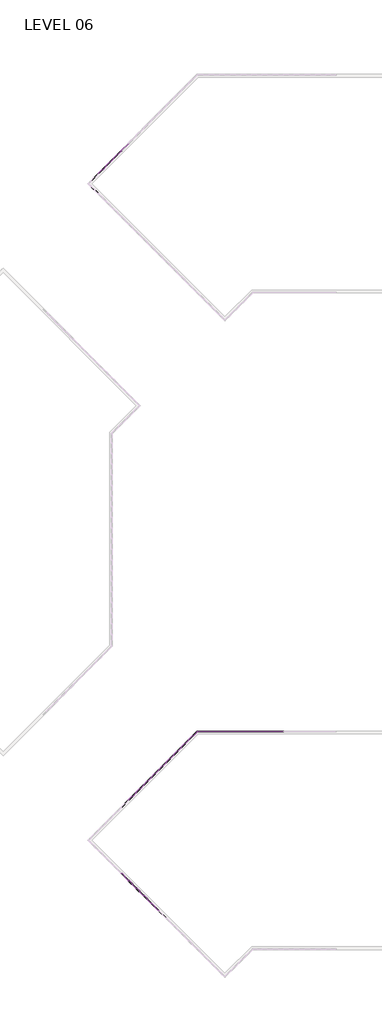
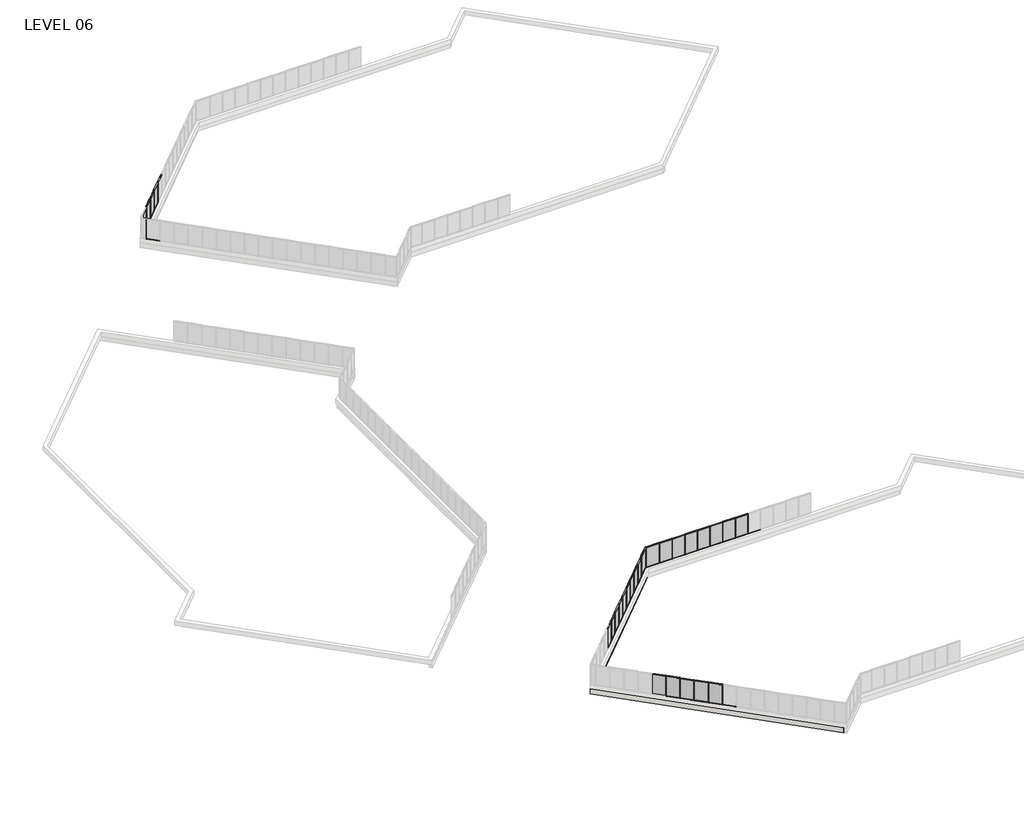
# One storey, part 7 of 17: 84 members, 27 plates, 2 walls.
"""IFC4 building model written with IfcOpenShell, lengths in millimetres."""

from ifc_helpers import new_model, si_unit, origin, place, context, project, spatial, faceted_brep, transform, mapped, element, save
from components import member_5247f267, member_e44af9ab, member_800970d4, member_1bd862b2, member_7ca0f77f, member_ed9c17d6, plate_67294edd, plate_048e4634, plate_aaac5d3d, plate_bbcbcabf, plate_e0fd5134, plate_db5d6751, plate_62af1d3c, plate_dca6a18a

model = new_model("IFC4")

# Units and contexts
model_context = context("Model", 3, world=origin())
ifc_project = project(units=[si_unit("LENGTHUNIT", "METRE", prefix="MILLI")], contexts=[model_context])

# Site, building, storey
site = spatial("IfcSite", under=ifc_project)
building = spatial("IfcBuilding", under=site)
storey = spatial("IfcBuildingStorey", under=building, Name="LEVEL 06", Elevation=19596.1)

# Members
placement = place(None, origin())
member_shape = member_5247f267(model_context)
element("IfcMember", 1, ObjectType="Rectangular Mullion : 2\" x 4.5\" rectangular", at=placement, inside=storey, context=model_context, shape_type="MappedRepresentation", body=[
    mapped(member_shape, transform((21469.35, 26080.1328721, 19596.1), x_axis=(0.0, 0.0, -1.0), y_axis=(0.0, -1.0, 0.0), z_axis=(-1.0, 0.0, 0.0))),
])
element("IfcMember", 2, ObjectType="Rectangular Mullion : 2\" x 4.5\" rectangular", at=placement, inside=storey, context=model_context, shape_type="MappedRepresentation", body=[
    mapped(member_shape, transform((22993.35, 26080.1328721, 19596.1), x_axis=(0.0, 0.0, -1.0), y_axis=(0.0, -1.0, 0.0), z_axis=(-1.0, 0.0, 0.0))),
])
element("IfcMember", 3, ObjectType="Rectangular Mullion : 2\" x 4.5\" rectangular", at=placement, inside=storey, context=model_context, shape_type="MappedRepresentation", body=[
    mapped(member_shape, transform((19945.35, 26080.1328721, 19596.1), x_axis=(0.0, 0.0, -1.0), y_axis=(0.0, -1.0, 0.0), z_axis=(-1.0, 0.0, 0.0))),
])
element("IfcMember", 4, ObjectType="Rectangular Mullion : 2\" x 4.5\" rectangular", at=placement, inside=storey, context=model_context, shape_type="MappedRepresentation", body=[
    mapped(member_shape, transform((18421.35, 26080.1328721, 19596.1), x_axis=(0.0, 0.0, -1.0), y_axis=(0.0, -1.0, 0.0), z_axis=(-1.0, 0.0, 0.0))),
])
element("IfcMember", 5, ObjectType="Rectangular Mullion : 2\" x 4.5\" rectangular", at=placement, inside=storey, context=model_context, shape_type="MappedRepresentation", body=[
    mapped(member_shape, transform((16897.35, 26080.1328721, 19596.1), x_axis=(0.0, 0.0, -1.0), y_axis=(0.0, -1.0, 0.0), z_axis=(-1.0, 0.0, 0.0))),
])
element("IfcMember", 6, ObjectType="Rectangular Mullion : 2\" x 4.5\" rectangular", at=placement, inside=storey, context=model_context, shape_type="MappedRepresentation", body=[
    mapped(member_shape, transform((15373.35, 26080.1328721, 19596.1), x_axis=(0.0, 0.0, -1.0), y_axis=(0.0, -1.0, 0.0), z_axis=(-1.0, 0.0, 0.0))),
])
element("IfcMember", 7, ObjectType="Rectangular Mullion : 2\" x 4.5\" rectangular", at=placement, inside=storey, context=model_context, shape_type="MappedRepresentation", body=[
    mapped(member_shape, transform((13849.35, 26080.1328721, 19596.1), x_axis=(0.0, 0.0, -1.0), y_axis=(0.0, -1.0, 0.0), z_axis=(-1.0, 0.0, 0.0))),
])
element("IfcMember", 8, ObjectType="Rectangular Mullion : 2\" x 4.5\" rectangular", at=placement, inside=storey, context=model_context, shape_type="MappedRepresentation", body=[
    mapped(member_shape, transform((12325.35, 26080.1328721, 19596.1), x_axis=(0.0, 0.0, -1.0), y_axis=(0.0, -1.0, 0.0), z_axis=(-1.0, 0.0, 0.0))),
])
element("IfcMember", 9, ObjectType="Rectangular Mullion : 2\" x 4.5\" rectangular", at=placement, inside=storey, context=model_context, shape_type="MappedRepresentation", body=[
    mapped(member_shape, transform((8320.1332875, 23790.0222953, 19596.1), x_axis=(0.0, 0.0, -1.0), y_axis=(-0.7071067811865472, 0.7071067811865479, 0.0), z_axis=(0.7071067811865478, 0.7071067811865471, 0.0))),
])
element("IfcMember", 10, ObjectType="Rectangular Mullion : 2\" x 4.5\" rectangular", at=placement, inside=storey, context=model_context, shape_type="MappedRepresentation", body=[
    mapped(member_shape, transform((7242.502553, 22712.3915608, 19596.1), x_axis=(0.0, 0.0, -1.0), y_axis=(-0.7071067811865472, 0.7071067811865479, 0.0), z_axis=(0.7071067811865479, 0.7071067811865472, 0.0))),
])
element("IfcMember", 11, ObjectType="Rectangular Mullion : 2\" x 4.5\" rectangular", at=placement, inside=storey, context=model_context, shape_type="MappedRepresentation", body=[
    mapped(member_shape, transform((6164.8718185, 21634.7608262, 19596.1), x_axis=(0.0, 0.0, -1.0), y_axis=(-0.7071067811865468, 0.7071067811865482, 0.0), z_axis=(0.7071067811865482, 0.7071067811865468, 0.0))),
])
element("IfcMember", 12, ObjectType="Rectangular Mullion : 2\" x 4.5\" rectangular", at=placement, inside=storey, context=model_context, shape_type="MappedRepresentation", body=[
    mapped(member_shape, transform((4009.6251512, 19479.5141589, 19596.1), x_axis=(0.0, 0.0, -1.0), y_axis=(-0.7071067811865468, 0.7071067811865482, 0.0), z_axis=(0.7071067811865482, 0.7071067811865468, 0.0))),
])
element("IfcMember", 13, ObjectType="Rectangular Mullion : 2\" x 4.5\" rectangular", at=placement, inside=storey, context=model_context, shape_type="MappedRepresentation", body=[
    mapped(member_shape, transform((2932.0092184, 18401.8982261, 19596.1), x_axis=(0.0, 0.0, -1.0), y_axis=(-0.7071067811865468, 0.7071067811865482, 0.0), z_axis=(0.7071067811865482, 0.7071067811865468, 0.0))),
])
element("IfcMember", 14, ObjectType="Rectangular Mullion : 2\" x 4.5\" rectangular", at=placement, inside=storey, context=model_context, shape_type="MappedRepresentation", body=[
    mapped(member_shape, transform((1854.3932855, 17324.2822933, 19596.1), x_axis=(0.0, 0.0, -1.0), y_axis=(-0.7071067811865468, 0.7071067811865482, 0.0), z_axis=(0.7071067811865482, 0.7071067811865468, 0.0))),
])
element("IfcMember", 15, ObjectType="Rectangular Mullion : 2\" x 4.5\" rectangular", at=placement, inside=storey, context=model_context, shape_type="MappedRepresentation", body=[
    mapped(member_shape, transform((776.7773527, 16246.6663605, 19596.1), x_axis=(0.0, 0.0, -1.0), y_axis=(-0.7071067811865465, 0.7071067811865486, 0.0), z_axis=(0.7071067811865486, 0.7071067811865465, 0.0))),
])
element("IfcMember", 16, ObjectType="Rectangular Mullion : 2\" x 4.5\" rectangular", at=placement, inside=storey, context=model_context, shape_type="MappedRepresentation", body=[
    mapped(member_shape, transform((9397.7640221, 24867.6530298, 19596.1), x_axis=(0.0, 0.0, -1.0), y_axis=(-0.7071067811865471, 0.7071067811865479, 0.0), z_axis=(0.7071067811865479, 0.7071067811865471, 0.0))),
])
element("IfcMember", 17, ObjectType="Rectangular Mullion : 2\" x 4.5\" rectangular", at=placement, inside=storey, context=model_context, shape_type="MappedRepresentation", body=[
    mapped(member_shape, transform((5087.2484848, 20557.1374926, 19596.1), x_axis=(0.0, 0.0, -1.0), y_axis=(-0.7071067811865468, 0.7071067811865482, 0.0), z_axis=(0.7071067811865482, 0.7071067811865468, 0.0))),
])
element("IfcMember", 18, ObjectType="Rectangular Mullion : 2\" x 4.5\" rectangular", at=placement, inside=storey, context=model_context, shape_type="MappedRepresentation", body=[
    mapped(member_shape, transform((812.6774444, 4705.5492921, 19596.1), x_axis=(0.0, 0.0, -1.0), y_axis=(-0.7071067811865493, -0.7071067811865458, 0.0), z_axis=(-0.7071067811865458, 0.7071067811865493, 0.0))),
])
element("IfcMember", 19, ObjectType="Rectangular Mullion : 2\" x 4.5\" rectangular", at=placement, inside=storey, context=model_context, shape_type="MappedRepresentation", body=[
    mapped(member_shape, transform((1890.2724444, 3627.9542921, 19596.1), x_axis=(0.0, 0.0, -1.0), y_axis=(-0.7071067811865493, -0.7071067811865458, 0.0), z_axis=(-0.7071067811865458, 0.7071067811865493, 0.0))),
])
element("IfcMember", 20, ObjectType="Rectangular Mullion : 2\" x 4.5\" rectangular", at=placement, inside=storey, context=model_context, shape_type="MappedRepresentation", body=[
    mapped(member_shape, transform((2967.8674444, 2550.3592921, 19596.1), x_axis=(0.0, 0.0, -1.0), y_axis=(-0.707106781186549, -0.7071067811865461, 0.0), z_axis=(-0.7071067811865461, 0.707106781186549, 0.0))),
])
element("IfcMember", 21, ObjectType="Rectangular Mullion : 2\" x 4.5\" rectangular", at=placement, inside=storey, context=model_context, shape_type="MappedRepresentation", body=[
    mapped(member_shape, transform((-3533.9094563, 105983.7989843, 19596.1), x_axis=(0.0, 0.0, -1.0), y_axis=(-0.7071067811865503, 0.7071067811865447, 0.0), z_axis=(0.7071067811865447, 0.7071067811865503, 0.0))),
])
element("IfcMember", 22, ObjectType="Rectangular Mullion : 2\" x 4.5\" rectangular", at=placement, inside=storey, context=model_context, shape_type="MappedRepresentation", body=[
    mapped(member_shape, transform((-301.0172527, 109216.6911879, 19596.1), x_axis=(0.0, 0.0, -1.0), y_axis=(-0.7071067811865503, 0.7071067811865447, 0.0), z_axis=(0.7071067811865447, 0.7071067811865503, 0.0))),
])
element("IfcMember", 23, ObjectType="Rectangular Mullion : 2\" x 4.5\" rectangular", at=placement, inside=storey, context=model_context, shape_type="MappedRepresentation", body=[
    mapped(member_shape, transform((-1378.6479872, 108139.0604533, 19596.1), x_axis=(0.0, 0.0, -1.0), y_axis=(-0.7071067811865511, 0.707106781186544, 0.0), z_axis=(0.707106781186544, 0.7071067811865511, 0.0))),
])
element("IfcMember", 24, ObjectType="Rectangular Mullion : 2\" x 4.5\" rectangular", at=placement, inside=storey, context=model_context, shape_type="MappedRepresentation", body=[
    mapped(member_shape, transform((-2456.2787218, 107061.4297188, 19596.1), x_axis=(0.0, 0.0, -1.0), y_axis=(-0.7071067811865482, 0.7071067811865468, 0.0), z_axis=(0.7071067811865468, 0.7071067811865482, 0.0))),
])
element("IfcMember", 25, ObjectType="Rectangular Mullion : 2\" x 4.5\" rectangular", at=placement, inside=storey, context=model_context, shape_type="MappedRepresentation", body=[
    mapped(member_shape, transform((-4575.4404937, 104141.486663, 19596.1), x_axis=(0.0, 0.0, -1.0), y_axis=(-0.7071067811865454, -0.7071067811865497, 0.0), z_axis=(-0.7071067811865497, 0.7071067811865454, 0.0))),
])
element("IfcMember", 26, ObjectType="Rectangular Mullion : 2\" x 4.5\" rectangular", at=placement, inside=storey, context=model_context, shape_type="MappedRepresentation", body=[
    mapped(member_shape, transform((21418.55, 26080.1328721, 22186.9), x_axis=(0.0, 0.0, 1.0), y_axis=(0.0, -1.0, 0.0), z_axis=(1.0, 0.0, 0.0))),
])
element("IfcMember", 27, ObjectType="Rectangular Mullion : 2\" x 4.5\" rectangular", at=placement, inside=storey, context=model_context, shape_type="MappedRepresentation", body=[
    mapped(member_shape, transform((22942.55, 26080.1328721, 22186.9), x_axis=(0.0, 0.0, 1.0), y_axis=(0.0, -1.0, 0.0), z_axis=(1.0, 0.0, 0.0))),
])
element("IfcMember", 28, ObjectType="Rectangular Mullion : 2\" x 4.5\" rectangular", at=placement, inside=storey, context=model_context, shape_type="MappedRepresentation", body=[
    mapped(member_shape, transform((19894.55, 26080.1328721, 22186.9), x_axis=(0.0, 0.0, 1.0), y_axis=(0.0, -1.0, 0.0), z_axis=(1.0, 0.0, 0.0))),
])
element("IfcMember", 29, ObjectType="Rectangular Mullion : 2\" x 4.5\" rectangular", at=placement, inside=storey, context=model_context, shape_type="MappedRepresentation", body=[
    mapped(member_shape, transform((18370.55, 26080.1328721, 22186.9), x_axis=(0.0, 0.0, 1.0), y_axis=(0.0, -1.0, 0.0), z_axis=(1.0, 0.0, 0.0))),
])
element("IfcMember", 30, ObjectType="Rectangular Mullion : 2\" x 4.5\" rectangular", at=placement, inside=storey, context=model_context, shape_type="MappedRepresentation", body=[
    mapped(member_shape, transform((16846.55, 26080.1328721, 22186.9), x_axis=(0.0, 0.0, 1.0), y_axis=(0.0, -1.0, 0.0), z_axis=(1.0, 0.0, 0.0))),
])
element("IfcMember", 31, ObjectType="Rectangular Mullion : 2\" x 4.5\" rectangular", at=placement, inside=storey, context=model_context, shape_type="MappedRepresentation", body=[
    mapped(member_shape, transform((15322.55, 26080.1328721, 22186.9), x_axis=(0.0, 0.0, 1.0), y_axis=(0.0, -1.0, 0.0), z_axis=(1.0, 0.0, 0.0))),
])
element("IfcMember", 32, ObjectType="Rectangular Mullion : 2\" x 4.5\" rectangular", at=placement, inside=storey, context=model_context, shape_type="MappedRepresentation", body=[
    mapped(member_shape, transform((13798.55, 26080.1328721, 22186.9), x_axis=(0.0, 0.0, 1.0), y_axis=(0.0, -1.0, 0.0), z_axis=(1.0, 0.0, 0.0))),
])
element("IfcMember", 33, ObjectType="Rectangular Mullion : 2\" x 4.5\" rectangular", at=placement, inside=storey, context=model_context, shape_type="MappedRepresentation", body=[
    mapped(member_shape, transform((8356.054312, 23825.9433198, 22186.9), x_axis=(0.0, 0.0, 1.0), y_axis=(-0.7071067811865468, 0.7071067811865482, 0.0), z_axis=(-0.7071067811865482, -0.7071067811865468, 0.0))),
])
element("IfcMember", 34, ObjectType="Rectangular Mullion : 2\" x 4.5\" rectangular", at=placement, inside=storey, context=model_context, shape_type="MappedRepresentation", body=[
    mapped(member_shape, transform((7278.4235775, 22748.3125852, 22186.9), x_axis=(0.0, 0.0, 1.0), y_axis=(-0.7071067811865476, 0.7071067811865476, 0.0), z_axis=(-0.7071067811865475, -0.7071067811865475, 0.0))),
])
element("IfcMember", 35, ObjectType="Rectangular Mullion : 2\" x 4.5\" rectangular", at=placement, inside=storey, context=model_context, shape_type="MappedRepresentation", body=[
    mapped(member_shape, transform((6200.792843, 21670.6818507, 22186.9), x_axis=(0.0, 0.0, 1.0), y_axis=(-0.7071067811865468, 0.7071067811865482, 0.0), z_axis=(-0.7071067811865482, -0.7071067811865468, 0.0))),
])
element("IfcMember", 36, ObjectType="Rectangular Mullion : 2\" x 4.5\" rectangular", at=placement, inside=storey, context=model_context, shape_type="MappedRepresentation", body=[
    mapped(member_shape, transform((4045.5461756, 19515.4351834, 22186.9), x_axis=(0.0, 0.0, 1.0), y_axis=(-0.7071067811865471, 0.7071067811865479, 0.0), z_axis=(-0.7071067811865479, -0.7071067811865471, 0.0))),
])
element("IfcMember", 37, ObjectType="Rectangular Mullion : 2\" x 4.5\" rectangular", at=placement, inside=storey, context=model_context, shape_type="MappedRepresentation", body=[
    mapped(member_shape, transform((2967.9302428, 18437.8192506, 22186.9), x_axis=(0.0, 0.0, 1.0), y_axis=(-0.7071067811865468, 0.7071067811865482, 0.0), z_axis=(-0.7071067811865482, -0.7071067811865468, 0.0))),
])
element("IfcMember", 38, ObjectType="Rectangular Mullion : 2\" x 4.5\" rectangular", at=placement, inside=storey, context=model_context, shape_type="MappedRepresentation", body=[
    mapped(member_shape, transform((1890.31431, 17360.2033178, 22186.9), x_axis=(0.0, 0.0, 1.0), y_axis=(-0.7071067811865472, 0.7071067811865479, 0.0), z_axis=(-0.7071067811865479, -0.7071067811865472, 0.0))),
])
element("IfcMember", 39, ObjectType="Rectangular Mullion : 2\" x 4.5\" rectangular", at=placement, inside=storey, context=model_context, shape_type="MappedRepresentation", body=[
    mapped(member_shape, transform((812.6983772, 16282.587385, 22186.9), x_axis=(0.0, 0.0, 1.0), y_axis=(-0.7071067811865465, 0.7071067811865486, 0.0), z_axis=(-0.7071067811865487, -0.7071067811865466, 0.0))),
])
element("IfcMember", 40, ObjectType="Rectangular Mullion : 2\" x 4.5\" rectangular", at=placement, inside=storey, context=model_context, shape_type="MappedRepresentation", body=[
    mapped(member_shape, transform((5123.1695093, 20593.058517, 22186.9), x_axis=(0.0, 0.0, 1.0), y_axis=(-0.7071067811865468, 0.7071067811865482, 0.0), z_axis=(-0.7071067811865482, -0.7071067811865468, 0.0))),
])
element("IfcMember", 41, ObjectType="Rectangular Mullion : 2\" x 4.5\" rectangular", at=placement, inside=storey, context=model_context, shape_type="MappedRepresentation", body=[
    mapped(member_shape, transform((776.7564199, 4741.4703165, 22186.9), x_axis=(0.0, 0.0, 1.0), y_axis=(-0.7071067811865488, -0.7071067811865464, 0.0), z_axis=(0.7071067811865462, -0.7071067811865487, 0.0))),
])
element("IfcMember", 42, ObjectType="Rectangular Mullion : 2\" x 4.5\" rectangular", at=placement, inside=storey, context=model_context, shape_type="MappedRepresentation", body=[
    mapped(member_shape, transform((1854.3514199, 3663.8753165, 22186.9), x_axis=(0.0, 0.0, 1.0), y_axis=(-0.7071067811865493, -0.7071067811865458, 0.0), z_axis=(0.7071067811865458, -0.7071067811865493, 0.0))),
])
element("IfcMember", 43, ObjectType="Rectangular Mullion : 2\" x 4.5\" rectangular", at=placement, inside=storey, context=model_context, shape_type="MappedRepresentation", body=[
    mapped(member_shape, transform((2931.9464199, 2586.2803165, 22186.9), x_axis=(0.0, 0.0, 1.0), y_axis=(-0.7071067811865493, -0.7071067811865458, 0.0), z_axis=(0.7071067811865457, -0.7071067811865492, 0.0))),
])
element("IfcMember", 44, ObjectType="Rectangular Mullion : 2\" x 4.5\" rectangular", at=placement, inside=storey, context=model_context, shape_type="MappedRepresentation", body=[
    mapped(member_shape, transform((4009.5414199, 1508.6853165, 22186.9), x_axis=(0.0, 0.0, 1.0), y_axis=(-0.7071067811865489, -0.7071067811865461, 0.0), z_axis=(0.7071067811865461, -0.7071067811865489, 0.0))),
])
element("IfcMember", 45, ObjectType="Rectangular Mullion : 2\" x 4.5\" rectangular", at=placement, inside=storey, context=model_context, shape_type="MappedRepresentation", body=[
    mapped(member_shape, transform((-3497.9884318, 106019.7200088, 22186.9), x_axis=(0.0, 0.0, 1.0), y_axis=(-0.7071067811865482, 0.7071067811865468, 0.0), z_axis=(-0.7071067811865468, -0.7071067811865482, 0.0))),
])
element("IfcMember", 46, ObjectType="Rectangular Mullion : 2\" x 4.5\" rectangular", at=placement, inside=storey, context=model_context, shape_type="MappedRepresentation", body=[
    mapped(member_shape, transform((-265.0962282, 109252.6122123, 22186.9), x_axis=(0.0, 0.0, 1.0), y_axis=(-0.7071067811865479, 0.7071067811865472, 0.0), z_axis=(-0.7071067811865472, -0.7071067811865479, 0.0))),
])
element("IfcMember", 47, ObjectType="Rectangular Mullion : 2\" x 4.5\" rectangular", at=placement, inside=storey, context=model_context, shape_type="MappedRepresentation", body=[
    mapped(member_shape, transform((-1342.7269627, 108174.9814778, 22186.9), x_axis=(0.0, 0.0, 1.0), y_axis=(-0.7071067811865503, 0.7071067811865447, 0.0), z_axis=(-0.7071067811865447, -0.7071067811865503, 0.0))),
])
element("IfcMember", 48, ObjectType="Rectangular Mullion : 2\" x 4.5\" rectangular", at=placement, inside=storey, context=model_context, shape_type="MappedRepresentation", body=[
    mapped(member_shape, transform((-2420.3576973, 107097.3507433, 22186.9), x_axis=(0.0, 0.0, 1.0), y_axis=(-0.7071067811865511, 0.707106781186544, 0.0), z_axis=(-0.707106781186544, -0.7071067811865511, 0.0))),
])
member_2_shape = member_e44af9ab(model_context)
element("IfcMember", 49, ObjectType="Rectangular Mullion : 2\" x 4.5\" rectangular", at=placement, inside=storey, context=model_context, shape_type="MappedRepresentation", body=[
    mapped(member_2_shape, transform((21443.95, 26080.1328721, 19596.1), x_axis=(1.0, 0.0, 0.0), y_axis=(0.0, -1.0, 0.0), z_axis=(0.0, 0.0, -1.0))),
])
element("IfcMember", 50, ObjectType="Rectangular Mullion : 2\" x 4.5\" rectangular", at=placement, inside=storey, context=model_context, shape_type="MappedRepresentation", body=[
    mapped(member_2_shape, transform((22967.95, 26080.1328721, 19596.1), x_axis=(1.0, 0.0, 0.0), y_axis=(0.0, -1.0, 0.0), z_axis=(0.0, 0.0, -1.0))),
])
element("IfcMember", 51, ObjectType="Rectangular Mullion : 2\" x 4.5\" rectangular", at=placement, inside=storey, context=model_context, shape_type="MappedRepresentation", body=[
    mapped(member_2_shape, transform((19919.95, 26080.1328721, 19596.1), x_axis=(1.0, 0.0, 0.0), y_axis=(0.0, -1.0, 0.0), z_axis=(0.0, 0.0, -1.0))),
])
element("IfcMember", 52, ObjectType="Rectangular Mullion : 2\" x 4.5\" rectangular", at=placement, inside=storey, context=model_context, shape_type="MappedRepresentation", body=[
    mapped(member_2_shape, transform((18395.95, 26080.1328721, 19596.1), x_axis=(1.0, 0.0, 0.0), y_axis=(0.0, -1.0, 0.0), z_axis=(0.0, 0.0, -1.0))),
])
element("IfcMember", 53, ObjectType="Rectangular Mullion : 2\" x 4.5\" rectangular", at=placement, inside=storey, context=model_context, shape_type="MappedRepresentation", body=[
    mapped(member_2_shape, transform((16871.95, 26080.1328721, 19596.1), x_axis=(1.0, 0.0, 0.0), y_axis=(0.0, -1.0, 0.0), z_axis=(0.0, 0.0, -1.0))),
])
element("IfcMember", 54, ObjectType="Rectangular Mullion : 2\" x 4.5\" rectangular", at=placement, inside=storey, context=model_context, shape_type="MappedRepresentation", body=[
    mapped(member_2_shape, transform((15347.95, 26080.1328721, 19596.1), x_axis=(1.0, 0.0, 0.0), y_axis=(0.0, -1.0, 0.0), z_axis=(0.0, 0.0, -1.0))),
])
element("IfcMember", 55, ObjectType="Rectangular Mullion : 2\" x 4.5\" rectangular", at=placement, inside=storey, context=model_context, shape_type="MappedRepresentation", body=[
    mapped(member_2_shape, transform((13823.95, 26080.1328721, 19596.1), x_axis=(1.0, 0.0, 0.0), y_axis=(0.0, -1.0, 0.0), z_axis=(0.0, 0.0, -1.0))),
])
element("IfcMember", 56, ObjectType="Rectangular Mullion : 2\" x 4.5\" rectangular", at=placement, inside=storey, context=model_context, shape_type="MappedRepresentation", body=[
    mapped(member_2_shape, transform((12299.95, 26080.1328721, 19596.1), x_axis=(1.0, 0.0, 0.0), y_axis=(0.0, -1.0, 0.0), z_axis=(0.0, 0.0, -1.0))),
])
element("IfcMember", 57, ObjectType="Rectangular Mullion : 2\" x 4.5\" rectangular", at=placement, inside=storey, context=model_context, shape_type="MappedRepresentation", body=[
    mapped(member_2_shape, transform((8338.0937998, 23807.9828075, 19596.1), x_axis=(-0.7071067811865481, -0.7071067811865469, 0.0), y_axis=(-0.7071067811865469, 0.7071067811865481, 0.0), z_axis=(0.0, 0.0, -1.0))),
])
element("IfcMember", 58, ObjectType="Rectangular Mullion : 2\" x 4.5\" rectangular", at=placement, inside=storey, context=model_context, shape_type="MappedRepresentation", body=[
    mapped(member_2_shape, transform((7260.4630653, 22730.352073, 19596.1), x_axis=(-0.7071067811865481, -0.7071067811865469, 0.0), y_axis=(-0.7071067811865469, 0.7071067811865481, 0.0), z_axis=(0.0, 0.0, -1.0))),
])
element("IfcMember", 59, ObjectType="Rectangular Mullion : 2\" x 4.5\" rectangular", at=placement, inside=storey, context=model_context, shape_type="MappedRepresentation", body=[
    mapped(member_2_shape, transform((6182.8323307, 21652.7213385, 19596.1), x_axis=(-0.7071067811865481, -0.7071067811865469, 0.0), y_axis=(-0.7071067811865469, 0.7071067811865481, 0.0), z_axis=(0.0, 0.0, -1.0))),
])
element("IfcMember", 60, ObjectType="Rectangular Mullion : 2\" x 4.5\" rectangular", at=placement, inside=storey, context=model_context, shape_type="MappedRepresentation", body=[
    mapped(member_2_shape, transform((4027.5856634, 19497.4746711, 19596.1), x_axis=(-0.7071067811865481, -0.7071067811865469, 0.0), y_axis=(-0.7071067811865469, 0.7071067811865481, 0.0), z_axis=(0.0, 0.0, -1.0))),
])
element("IfcMember", 61, ObjectType="Rectangular Mullion : 2\" x 4.5\" rectangular", at=placement, inside=storey, context=model_context, shape_type="MappedRepresentation", body=[
    mapped(member_2_shape, transform((2949.9697306, 18419.8587383, 19596.1), x_axis=(-0.7071067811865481, -0.7071067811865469, 0.0), y_axis=(-0.7071067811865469, 0.7071067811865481, 0.0), z_axis=(0.0, 0.0, -1.0))),
])
element("IfcMember", 62, ObjectType="Rectangular Mullion : 2\" x 4.5\" rectangular", at=placement, inside=storey, context=model_context, shape_type="MappedRepresentation", body=[
    mapped(member_2_shape, transform((1872.3537978, 17342.2428055, 19596.1), x_axis=(-0.7071067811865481, -0.7071067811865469, 0.0), y_axis=(-0.7071067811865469, 0.7071067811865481, 0.0), z_axis=(0.0, 0.0, -1.0))),
])
element("IfcMember", 63, ObjectType="Rectangular Mullion : 2\" x 4.5\" rectangular", at=placement, inside=storey, context=model_context, shape_type="MappedRepresentation", body=[
    mapped(member_2_shape, transform((794.737865, 16264.6268727, 19596.1), x_axis=(-0.7071067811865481, -0.7071067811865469, 0.0), y_axis=(-0.7071067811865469, 0.7071067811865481, 0.0), z_axis=(0.0, 0.0, -1.0))),
])
element("IfcMember", 64, ObjectType="Rectangular Mullion : 2\" x 4.5\" rectangular", at=placement, inside=storey, context=model_context, shape_type="MappedRepresentation", body=[
    mapped(member_2_shape, transform((9415.7245343, 24885.6135421, 19596.1), x_axis=(-0.7071067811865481, -0.7071067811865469, 0.0), y_axis=(-0.7071067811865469, 0.7071067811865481, 0.0), z_axis=(0.0, 0.0, -1.0))),
])
element("IfcMember", 65, ObjectType="Rectangular Mullion : 2\" x 4.5\" rectangular", at=placement, inside=storey, context=model_context, shape_type="MappedRepresentation", body=[
    mapped(member_2_shape, transform((5105.2089971, 20575.0980048, 19596.1), x_axis=(-0.7071067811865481, -0.7071067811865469, 0.0), y_axis=(-0.7071067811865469, 0.7071067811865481, 0.0), z_axis=(0.0, 0.0, -1.0))),
])
element("IfcMember", 66, ObjectType="Rectangular Mullion : 2\" x 4.5\" rectangular", at=placement, inside=storey, context=model_context, shape_type="MappedRepresentation", body=[
    mapped(member_2_shape, transform((794.7169322, 4723.5098043, 19596.1), x_axis=(0.7071067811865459, -0.7071067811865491, 0.0), y_axis=(-0.7071067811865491, -0.7071067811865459, 0.0), z_axis=(0.0, 0.0, -1.0))),
])
element("IfcMember", 67, ObjectType="Rectangular Mullion : 2\" x 4.5\" rectangular", at=placement, inside=storey, context=model_context, shape_type="MappedRepresentation", body=[
    mapped(member_2_shape, transform((1872.3119322, 3645.9148043, 19596.1), x_axis=(0.7071067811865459, -0.7071067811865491, 0.0), y_axis=(-0.7071067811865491, -0.7071067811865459, 0.0), z_axis=(0.0, 0.0, -1.0))),
])
element("IfcMember", 68, ObjectType="Rectangular Mullion : 2\" x 4.5\" rectangular", at=placement, inside=storey, context=model_context, shape_type="MappedRepresentation", body=[
    mapped(member_2_shape, transform((2949.9069322, 2568.3198043, 19596.1), x_axis=(0.7071067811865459, -0.7071067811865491, 0.0), y_axis=(-0.7071067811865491, -0.7071067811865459, 0.0), z_axis=(0.0, 0.0, -1.0))),
])
element("IfcMember", 69, ObjectType="Rectangular Mullion : 2\" x 4.5\" rectangular", at=placement, inside=storey, context=model_context, shape_type="MappedRepresentation", body=[
    mapped(member_2_shape, transform((4027.5019322, 1490.7248043, 19596.1), x_axis=(0.7071067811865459, -0.7071067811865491, 0.0), y_axis=(-0.7071067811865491, -0.7071067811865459, 0.0), z_axis=(0.0, 0.0, -1.0))),
])
element("IfcMember", 70, ObjectType="Rectangular Mullion : 2\" x 4.5\" rectangular", at=placement, inside=storey, context=model_context, shape_type="MappedRepresentation", body=[
    mapped(member_2_shape, transform((5102.1211371, 416.1055994, 19596.1), x_axis=(0.7071067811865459, -0.7071067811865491, 0.0), y_axis=(-0.7071067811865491, -0.7071067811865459, 0.0), z_axis=(0.0, 0.0, -1.0))),
])
element("IfcMember", 71, ObjectType="Rectangular Mullion : 2\" x 4.5\" rectangular", at=placement, inside=storey, context=model_context, shape_type="MappedRepresentation", body=[
    mapped(member_2_shape, transform((-3515.948944, 106001.7594965, 19596.1), x_axis=(-0.7071067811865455, -0.7071067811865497, 0.0), y_axis=(-0.7071067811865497, 0.7071067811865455, 0.0), z_axis=(0.0, 0.0, -1.0))),
])
element("IfcMember", 72, ObjectType="Rectangular Mullion : 2\" x 4.5\" rectangular", at=placement, inside=storey, context=model_context, shape_type="MappedRepresentation", body=[
    mapped(member_2_shape, transform((-283.0567405, 109234.6517001, 19596.1), x_axis=(-0.7071067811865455, -0.7071067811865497, 0.0), y_axis=(-0.7071067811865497, 0.7071067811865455, 0.0), z_axis=(0.0, 0.0, -1.0))),
])
element("IfcMember", 73, ObjectType="Rectangular Mullion : 2\" x 4.5\" rectangular", at=placement, inside=storey, context=model_context, shape_type="MappedRepresentation", body=[
    mapped(member_2_shape, transform((-1360.687475, 108157.0209656, 19596.1), x_axis=(-0.7071067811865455, -0.7071067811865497, 0.0), y_axis=(-0.7071067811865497, 0.7071067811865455, 0.0), z_axis=(0.0, 0.0, -1.0))),
])
element("IfcMember", 74, ObjectType="Rectangular Mullion : 2\" x 4.5\" rectangular", at=placement, inside=storey, context=model_context, shape_type="MappedRepresentation", body=[
    mapped(member_2_shape, transform((-2438.3182095, 107079.390231, 19596.1), x_axis=(-0.7071067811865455, -0.7071067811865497, 0.0), y_axis=(-0.7071067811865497, 0.7071067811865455, 0.0), z_axis=(0.0, 0.0, -1.0))),
])
element("IfcMember", 75, ObjectType="Rectangular Mullion : 2\" x 4.5\" rectangular", at=placement, inside=storey, context=model_context, shape_type="MappedRepresentation", body=[
    mapped(member_2_shape, transform((-4593.4010059, 104159.4471752, 19596.1), x_axis=(0.7071067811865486, -0.7071067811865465, 0.0), y_axis=(-0.7071067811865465, -0.7071067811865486, 0.0), z_axis=(0.0, 0.0, -1.0))),
])
member_3_shape = member_800970d4(model_context)
element("IfcMember", 76, ObjectType="Rectangular Mullion : 2\" x 4.5\" rectangular", at=placement, inside=storey, context=model_context, shape_type="MappedRepresentation", body=[
    mapped(member_3_shape, transform((10610.2438644, 26080.1328721, 22186.9), x_axis=(-1.0, 0.0, 0.0), y_axis=(0.0, -1.0, 0.0), z_axis=(0.0, 0.0, 1.0))),
])
element("IfcMember", 77, ObjectType="Rectangular Mullion : 2\" x 4.5\" rectangular", at=placement, inside=storey, context=model_context, shape_type="MappedRepresentation", body=[
    mapped(member_3_shape, transform((10610.2438644, 26080.1328721, 22186.9), x_axis=(0.7071067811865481, 0.7071067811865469, 0.0), y_axis=(-0.7071067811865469, 0.7071067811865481, 0.0), z_axis=(0.0, 0.0, 1.0))),
])
member_4_shape = member_1bd862b2(model_context)
element("IfcMember", 78, ObjectType="Rectangular Mullion : 2\" x 4.5\" rectangular", at=placement, inside=storey, context=model_context, shape_type="MappedRepresentation", body=[
    mapped(member_4_shape, transform((12274.55, 26080.1328721, 22186.9), x_axis=(0.0, 0.0, 1.0), y_axis=(0.0, -1.0, 0.0), z_axis=(1.0, 0.0, 0.0))),
])
element("IfcMember", 79, ObjectType="Rectangular Mullion : 2\" x 4.5\" rectangular", at=placement, inside=storey, context=model_context, shape_type="MappedRepresentation", body=[
    mapped(member_4_shape, transform((10661.0438644, 26080.1328721, 19596.1), x_axis=(0.0, 0.0, -1.0), y_axis=(0.0, -1.0, 0.0), z_axis=(-1.0, 0.0, 0.0))),
])
member_5_shape = member_7ca0f77f(model_context)
element("IfcMember", 80, ObjectType="Rectangular Mullion : 2\" x 4.5\" rectangular", at=placement, inside=storey, context=model_context, shape_type="MappedRepresentation", body=[
    mapped(member_5_shape, transform((9433.6850466, 24903.5740543, 22186.9), x_axis=(0.0, 0.0, 1.0), y_axis=(-0.7071067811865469, 0.7071067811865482, 0.0), z_axis=(-0.7071067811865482, -0.7071067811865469, 0.0))),
])
element("IfcMember", 81, ObjectType="Rectangular Mullion : 2\" x 4.5\" rectangular", at=placement, inside=storey, context=model_context, shape_type="MappedRepresentation", body=[
    mapped(member_5_shape, transform((10574.3228399, 26044.2118476, 19596.1), x_axis=(0.0, 0.0, -1.0), y_axis=(-0.7071067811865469, 0.7071067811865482, 0.0), z_axis=(0.7071067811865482, 0.7071067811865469, 0.0))),
])
member_6_shape = member_ed9c17d6(model_context)
element("IfcMember", 82, ObjectType="Rectangular Mullion : 2\" x 4.5\" rectangular", at=placement, inside=storey, context=model_context, shape_type="MappedRepresentation", body=[
    mapped(member_6_shape, transform((5084.1606248, 434.0661116, 22186.9), x_axis=(0.0, 0.0, 1.0), y_axis=(-0.7071067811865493, -0.7071067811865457, 0.0), z_axis=(0.7071067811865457, -0.7071067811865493, 0.0))),
])
element("IfcMember", 83, ObjectType="Rectangular Mullion : 2\" x 4.5\" rectangular", at=placement, inside=storey, context=model_context, shape_type="MappedRepresentation", body=[
    mapped(member_6_shape, transform((4045.4624444, 1472.7642921, 19596.1), x_axis=(0.0, 0.0, -1.0), y_axis=(-0.7071067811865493, -0.7071067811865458, 0.0), z_axis=(-0.7071067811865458, 0.7071067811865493, 0.0))),
])
element("IfcMember", 84, ObjectType="Rectangular Mullion : 2\" x 4.5\" rectangular", at=placement, inside=storey, context=model_context, shape_type="MappedRepresentation", body=[
    mapped(member_6_shape, transform((5120.0816493, 398.1450872, 19596.1), x_axis=(0.0, 0.0, -1.0), y_axis=(-0.7071067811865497, -0.7071067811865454, 0.0), z_axis=(-0.7071067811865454, 0.7071067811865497, 0.0))),
])

# Plates
plate_shape = plate_67294edd(model_context)
element("IfcPlate", 85, ObjectType="System Panel : 1/4\" Glass", at=placement, inside=storey, context=model_context, shape_type="MappedRepresentation", body=[
    mapped(plate_shape, transform((22205.95, 26080.1328721, 19646.9), x_axis=(1.0, 0.0, 0.0), y_axis=(0.0, 1.0, 0.0), z_axis=(0.0, 0.0, 1.0))),
])
element("IfcPlate", 86, ObjectType="System Panel : 1/4\" Glass", at=placement, inside=storey, context=model_context, shape_type="MappedRepresentation", body=[
    mapped(plate_shape, transform((20681.95, 26080.1328721, 19646.9), x_axis=(1.0, 0.0, 0.0), y_axis=(0.0, 1.0, 0.0), z_axis=(0.0, 0.0, 1.0))),
])
element("IfcPlate", 87, ObjectType="System Panel : 1/4\" Glass", at=placement, inside=storey, context=model_context, shape_type="MappedRepresentation", body=[
    mapped(plate_shape, transform((19157.95, 26080.1328721, 19646.9), x_axis=(1.0, 0.0, 0.0), y_axis=(0.0, 1.0, 0.0), z_axis=(0.0, 0.0, 1.0))),
])
element("IfcPlate", 88, ObjectType="System Panel : 1/4\" Glass", at=placement, inside=storey, context=model_context, shape_type="MappedRepresentation", body=[
    mapped(plate_shape, transform((17633.95, 26080.1328721, 19646.9), x_axis=(1.0, 0.0, 0.0), y_axis=(0.0, 1.0, 0.0), z_axis=(0.0, 0.0, 1.0))),
])
element("IfcPlate", 89, ObjectType="System Panel : 1/4\" Glass", at=placement, inside=storey, context=model_context, shape_type="MappedRepresentation", body=[
    mapped(plate_shape, transform((16109.95, 26080.1328721, 19646.9), x_axis=(1.0, 0.0, 0.0), y_axis=(0.0, 1.0, 0.0), z_axis=(0.0, 0.0, 1.0))),
])
element("IfcPlate", 90, ObjectType="System Panel : 1/4\" Glass", at=placement, inside=storey, context=model_context, shape_type="MappedRepresentation", body=[
    mapped(plate_shape, transform((14585.95, 26080.1328721, 19646.9), x_axis=(1.0, 0.0, 0.0), y_axis=(0.0, 1.0, 0.0), z_axis=(0.0, 0.0, 1.0))),
])
element("IfcPlate", 91, ObjectType="System Panel : 1/4\" Glass", at=placement, inside=storey, context=model_context, shape_type="MappedRepresentation", body=[
    mapped(plate_shape, transform((13061.95, 26080.1328721, 19646.9), x_axis=(1.0, 0.0, 0.0), y_axis=(0.0, 1.0, 0.0), z_axis=(0.0, 0.0, 1.0))),
])
element("IfcPlate", 92, ObjectType="System Panel : 1/4\" Glass", at=placement, inside=storey, context=model_context, shape_type="MappedRepresentation", body=[
    mapped(plate_shape, transform((7799.2784325, 23269.1674403, 19646.9), x_axis=(-0.7071067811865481, -0.7071067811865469, 0.0), y_axis=(0.7071067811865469, -0.7071067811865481, 0.0), z_axis=(0.0, 0.0, 1.0))),
])
element("IfcPlate", 93, ObjectType="System Panel : 1/4\" Glass", at=placement, inside=storey, context=model_context, shape_type="MappedRepresentation", body=[
    mapped(plate_shape, transform((6721.647698, 22191.5367057, 19646.9), x_axis=(-0.7071067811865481, -0.7071067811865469, 0.0), y_axis=(0.7071067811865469, -0.7071067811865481, 0.0), z_axis=(0.0, 0.0, 1.0))),
])
element("IfcPlate", 94, ObjectType="System Panel : 1/4\" Glass", at=placement, inside=storey, context=model_context, shape_type="MappedRepresentation", body=[
    mapped(plate_shape, transform((8876.909167, 24346.7981748, 19646.9), x_axis=(-0.7071067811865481, -0.7071067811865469, 0.0), y_axis=(0.7071067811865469, -0.7071067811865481, 0.0), z_axis=(0.0, 0.0, 1.0))),
])
element("IfcPlate", 95, ObjectType="System Panel : 1/4\" Glass", at=placement, inside=storey, context=model_context, shape_type="MappedRepresentation", body=[
    mapped(plate_shape, transform((-4054.7643113, 105462.9441292, 19646.9), x_axis=(-0.7071067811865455, -0.7071067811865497, 0.0), y_axis=(0.7071067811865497, -0.7071067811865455, 0.0), z_axis=(0.0, 0.0, 1.0))),
])
element("IfcPlate", 96, ObjectType="System Panel : 1/4\" Glass", at=placement, inside=storey, context=model_context, shape_type="MappedRepresentation", body=[
    mapped(plate_shape, transform((-821.8721077, 108695.8363328, 19646.9), x_axis=(-0.7071067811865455, -0.7071067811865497, 0.0), y_axis=(0.7071067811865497, -0.7071067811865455, 0.0), z_axis=(0.0, 0.0, 1.0))),
])
element("IfcPlate", 97, ObjectType="System Panel : 1/4\" Glass", at=placement, inside=storey, context=model_context, shape_type="MappedRepresentation", body=[
    mapped(plate_shape, transform((-1899.5028422, 107618.2055983, 19646.9), x_axis=(-0.7071067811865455, -0.7071067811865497, 0.0), y_axis=(0.7071067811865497, -0.7071067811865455, 0.0), z_axis=(0.0, 0.0, 1.0))),
])
element("IfcPlate", 98, ObjectType="System Panel : 1/4\" Glass", at=placement, inside=storey, context=model_context, shape_type="MappedRepresentation", body=[
    mapped(plate_shape, transform((-2977.1335768, 106540.5748638, 19646.9), x_axis=(-0.7071067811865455, -0.7071067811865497, 0.0), y_axis=(0.7071067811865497, -0.7071067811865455, 0.0), z_axis=(0.0, 0.0, 1.0))),
])
plate_2_shape = plate_048e4634(model_context)
element("IfcPlate", 99, ObjectType="System Panel : 1/4\" Glass", at=placement, inside=storey, context=model_context, shape_type="MappedRepresentation", body=[
    mapped(plate_2_shape, transform((1333.5144322, 4184.7123043, 19646.9), x_axis=(0.7071067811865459, -0.7071067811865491, 0.0), y_axis=(0.7071067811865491, 0.7071067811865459, 0.0), z_axis=(0.0, 0.0, 1.0))),
])
element("IfcPlate", 100, ObjectType="System Panel : 1/4\" Glass", at=placement, inside=storey, context=model_context, shape_type="MappedRepresentation", body=[
    mapped(plate_2_shape, transform((2411.1094322, 3107.1173043, 19646.9), x_axis=(0.7071067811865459, -0.7071067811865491, 0.0), y_axis=(0.7071067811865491, 0.7071067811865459, 0.0), z_axis=(0.0, 0.0, 1.0))),
])
element("IfcPlate", 101, ObjectType="System Panel : 1/4\" Glass", at=placement, inside=storey, context=model_context, shape_type="MappedRepresentation", body=[
    mapped(plate_2_shape, transform((3488.7044322, 2029.5223043, 19646.9), x_axis=(0.7071067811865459, -0.7071067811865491, 0.0), y_axis=(0.7071067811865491, 0.7071067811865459, 0.0), z_axis=(0.0, 0.0, 1.0))),
])
plate_3_shape = plate_aaac5d3d(model_context)
element("IfcPlate", 102, ObjectType="System Panel : 1/4\" Glass", at=placement, inside=storey, context=model_context, shape_type="MappedRepresentation", body=[
    mapped(plate_3_shape, transform((3488.777697, 18958.6667047, 19646.9), x_axis=(-0.7071067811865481, -0.7071067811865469, 0.0), y_axis=(0.7071067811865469, -0.7071067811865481, 0.0), z_axis=(0.0, 0.0, 1.0))),
])
element("IfcPlate", 103, ObjectType="System Panel : 1/4\" Glass", at=placement, inside=storey, context=model_context, shape_type="MappedRepresentation", body=[
    mapped(plate_3_shape, transform((2411.1617642, 17881.0507719, 19646.9), x_axis=(-0.7071067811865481, -0.7071067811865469, 0.0), y_axis=(0.7071067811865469, -0.7071067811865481, 0.0), z_axis=(0.0, 0.0, 1.0))),
])
element("IfcPlate", 104, ObjectType="System Panel : 1/4\" Glass", at=placement, inside=storey, context=model_context, shape_type="MappedRepresentation", body=[
    mapped(plate_3_shape, transform((1333.5458314, 16803.4348391, 19646.9), x_axis=(-0.7071067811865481, -0.7071067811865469, 0.0), y_axis=(0.7071067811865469, -0.7071067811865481, 0.0), z_axis=(0.0, 0.0, 1.0))),
])
plate_4_shape = plate_bbcbcabf(model_context)
element("IfcPlate", 105, ObjectType="System Panel : 1/4\" Glass", at=placement, inside=storey, context=model_context, shape_type="MappedRepresentation", body=[
    mapped(plate_4_shape, transform((11467.7969322, 26080.1328721, 19646.9), x_axis=(1.0, 0.0, 0.0), y_axis=(0.0, 1.0, 0.0), z_axis=(0.0, 0.0, 1.0))),
])
plate_5_shape = plate_e0fd5134(model_context)
element("IfcPlate", 106, ObjectType="System Panel : 1/4\" Glass", at=placement, inside=storey, context=model_context, shape_type="MappedRepresentation", body=[
    mapped(plate_5_shape, transform((5644.0206639, 21113.9096716, 19646.9), x_axis=(-0.7071067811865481, -0.7071067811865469, 0.0), y_axis=(0.7071067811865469, -0.7071067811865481, 0.0), z_axis=(0.0, 0.0, 1.0))),
])
element("IfcPlate", 107, ObjectType="System Panel : 1/4\" Glass", at=placement, inside=storey, context=model_context, shape_type="MappedRepresentation", body=[
    mapped(plate_5_shape, transform((255.9261982, 15725.8152059, 19646.9), x_axis=(-0.7071067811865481, -0.7071067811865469, 0.0), y_axis=(0.7071067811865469, -0.7071067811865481, 0.0), z_axis=(0.0, 0.0, 1.0))),
])
element("IfcPlate", 108, ObjectType="System Panel : 1/4\" Glass", at=placement, inside=storey, context=model_context, shape_type="MappedRepresentation", body=[
    mapped(plate_5_shape, transform((4566.3973302, 20036.286338, 19646.9), x_axis=(-0.7071067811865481, -0.7071067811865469, 0.0), y_axis=(0.7071067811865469, -0.7071067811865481, 0.0), z_axis=(0.0, 0.0, 1.0))),
])
plate_6_shape = plate_db5d6751(model_context)
element("IfcPlate", 109, ObjectType="System Panel : 1/4\" Glass", at=placement, inside=storey, context=model_context, shape_type="MappedRepresentation", body=[
    mapped(plate_6_shape, transform((10004.0039432, 25473.892951, 19646.9), x_axis=(-0.7071067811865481, -0.7071067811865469, 0.0), y_axis=(0.7071067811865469, -0.7071067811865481, 0.0), z_axis=(0.0, 0.0, 1.0))),
])
plate_7_shape = plate_62af1d3c(model_context)
element("IfcPlate", 110, ObjectType="System Panel : 1/4\" Glass", at=placement, inside=storey, context=model_context, shape_type="MappedRepresentation", body=[
    mapped(plate_7_shape, transform((255.9104986, 5262.3162379, 19646.9), x_axis=(0.7071067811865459, -0.7071067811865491, 0.0), y_axis=(0.7071067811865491, 0.7071067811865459, 0.0), z_axis=(0.0, 0.0, 1.0))),
])
plate_8_shape = plate_dca6a18a(model_context)
element("IfcPlate", 111, ObjectType="System Panel : 1/4\" Glass", at=placement, inside=storey, context=model_context, shape_type="MappedRepresentation", body=[
    mapped(plate_8_shape, transform((4564.8115346, 953.4152019, 19646.9), x_axis=(0.7071067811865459, -0.7071067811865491, 0.0), y_axis=(0.7071067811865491, 0.7071067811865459, 0.0), z_axis=(0.0, 0.0, 1.0))),
])

# Walls
element("IfcWall", 112, ObjectType="01-CONCRETE-12", at=placement, inside=storey, context=model_context, shape_type="Brep", body=[
    faceted_brep([(14585.95, -8717.4932748, 18415.0), (-4625.6011469, 10494.0578721, 18415.0), (-4841.1272938, 10709.584019, 18415.0), (-4841.1272938, 10709.584019, 19037.3), (-4625.6011469, 10494.0578721, 19037.3), (14585.95, -8717.4932748, 19037.3), (14370.4238531, -8933.0194217, 18415.0), (14370.4238531, -8933.0194217, 19037.3), (-5056.6534407, 10494.0578721, 19037.3), (-5056.6534407, 10494.0578721, 18415.0)], [[[0, 1, 2, 3, 4, 5]], [[6, 7, 8, 9]], [[2, 1, 0, 6, 9]], [[5, 4, 3, 8, 7]], [[0, 5, 7, 6]], [[3, 2, 9, 8]]]),
])
element("IfcWall", 113, ObjectType="01-CONCRETE-12", at=placement, inside=storey, context=model_context, shape_type="Brep", body=[
    faceted_brep([(-4625.6011469, 10494.0578721, 18415.0), (-323.2892204, 14796.3697987, 18415.0), (107.7630735, 15227.4220925, 18415.0), (10422.9028286, 25542.5618476, 18415.0), (10712.8238531, 25832.4828721, 18415.0), (10712.8238531, 25832.4828721, 19037.3), (10422.9028286, 25542.5618476, 19037.3), (107.7630735, 15227.4220925, 19037.3), (-323.2892204, 14796.3697987, 19037.3), (-4625.6011469, 10494.0578721, 19037.3), (-4841.1272938, 10709.584019, 18415.0), (-4841.1272938, 10709.584019, 19037.3), (10281.7715593, 25832.4828721, 19037.3), (10281.7715593, 25832.4828721, 18415.0)], [[[0, 1, 2, 3, 4, 5, 6, 7, 8, 9]], [[10, 11, 12, 13]], [[4, 3, 2, 1, 0, 10, 13]], [[9, 8, 7, 6, 5, 12, 11]], [[0, 9, 11, 10]], [[5, 4, 13, 12]]]),
])

save(model, "model.ifc")
